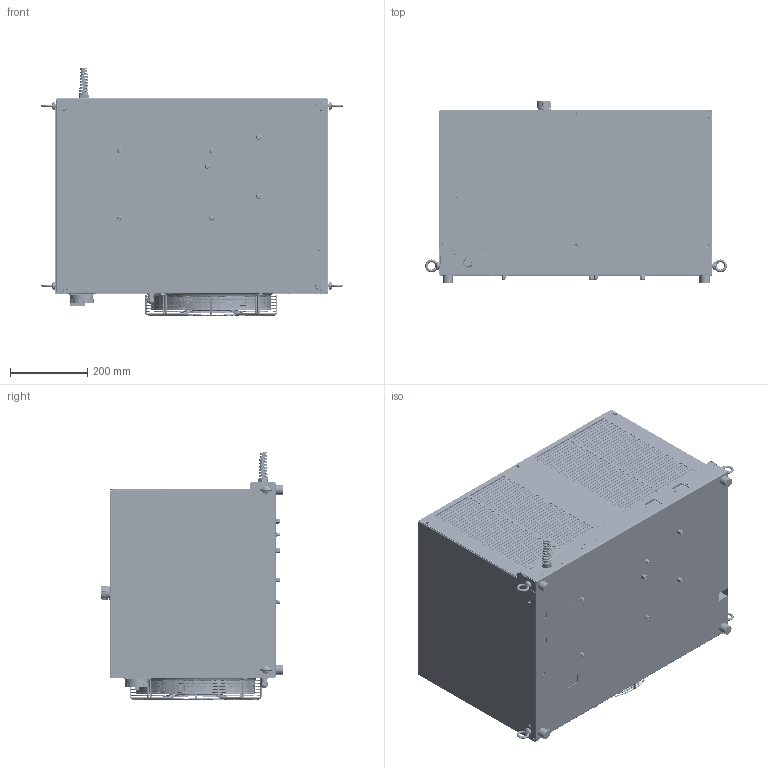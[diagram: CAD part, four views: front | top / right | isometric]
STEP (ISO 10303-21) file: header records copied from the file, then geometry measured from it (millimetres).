
FILE_DESCRIPTION (( 'STEP AP214' ), '1' );
FILE_NAME ('PC2500.STEP', '2024-09-25T07:36:24', ( '' ), ( '' ), 'SwSTEP 2.0', 'SolidWorks 2021', '' );
FILE_SCHEMA (( 'AUTOMOTIVE_DESIGN' ));
Length unit declared in the file: millimetre
Products named in the file (1): PC2500
Bounding box: 780.6 x 473 x 640.48 mm (x, y, z)
Volume: 142174406.8 mm3; surface area: 5151100.4 mm2
Topology: 47 solids, 47 shells, 3598 faces, 9789 edges, 6300 vertices
Faces by surface type: plane 2167, cylinder 881, bspline 291, cone 177, torus 50, sphere 32
Full cylindrical faces by diameter (mm): 2 x4, 3.3 x5, 3.8 x8, 4 x14, 4.4 x32, 4.5 x31, 5 x8, 5.1 x11, 6 x4, 6.198 x2, 6.5 x2, 6.8 x4, 7 x6, 8 x32, 9 x10, 9.5 x1, 10 x19, 10.5 x10, 11 x6, 11.278 x2, 12 x1, 13.8 x2, 15 x12, 15.6 x1, 15.9 x1, 16.5 x2, 17.5 x1, 18.5 x1, 18.7 x6, 19 x1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
Entity records: 209041 total; most frequent: CARTESIAN_POINT 82852, ORIENTED_EDGE 17794, DIRECTION 16372, EDGE_CURVE 8897, VERTEX_POINT 6011, AXIS2_PLACEMENT_3D 5645, EDGE_LOOP 5210, LINE 5082
